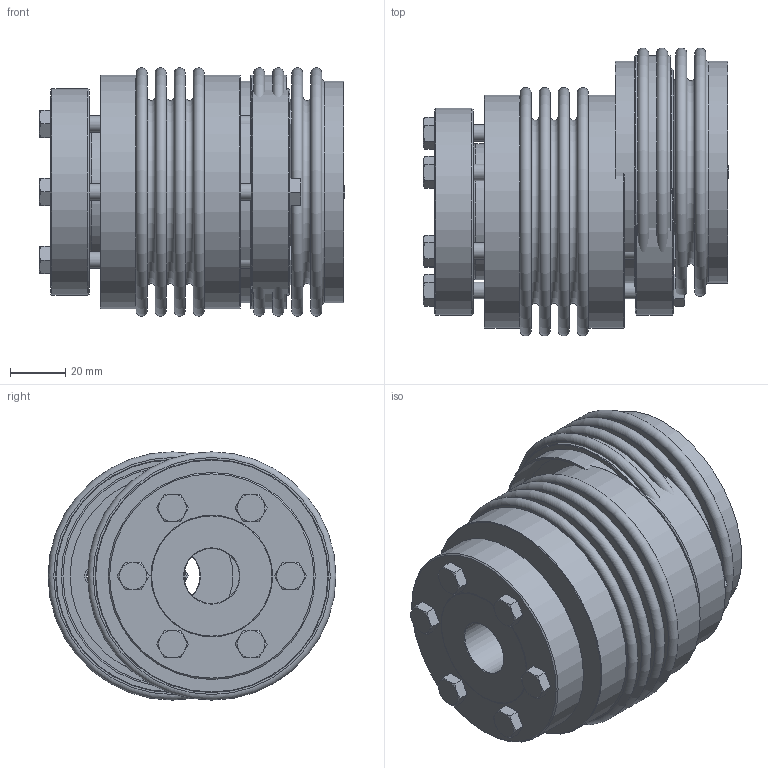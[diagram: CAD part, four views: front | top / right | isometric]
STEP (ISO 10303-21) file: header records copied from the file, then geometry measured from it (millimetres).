
FILE_DESCRIPTION( ( 'Unknown' ), '1' );
FILE_NAME( 'C:/Dokumente und Einstellungen/Sven/Desktop/homepage/cad - homepage/KB6/KB6-200-95.stp', 'Unknown', ( 'Unknown' ), ( 'Unknown' ), 'XStep 1.0', 'Unknown', ' ' );
FILE_SCHEMA( ( 'automotive_design' ) );
Length unit declared in the file: millimetre
Products named in the file (5): Assem1; Hex Screw GradeC_DIN_ISO 4018 - M6 x 30-NN_2; DR200_Standard_0; BA200_Standard_0; BK200_Standard
Bounding box: 110.52 x 104.31 x 89.99 mm (x, y, z)
Volume: 432877 mm3; surface area: 214556.6 mm2
Topology: 21 solids, 21 shells, 391 faces, 809 edges, 508 vertices
Faces by surface type: plane 168, cone 118, cylinder 69, torus 36
Full cylindrical faces by diameter (mm): 5 x18, 6 x13, 6.6 x18, 20 x3, 49.29 x3, 75 x3, 79.2 x4, 80.4 x4, 84.5 x3
Entity records: 2284 total; most frequent: DIRECTION 404, CARTESIAN_POINT 359, ORIENTED_EDGE 230, AXIS2_PLACEMENT_3D 196, EDGE_LOOP 184, FACE_OUTER_BOUND 126, EDGE_CURVE 115, VERTEX_POINT 103
